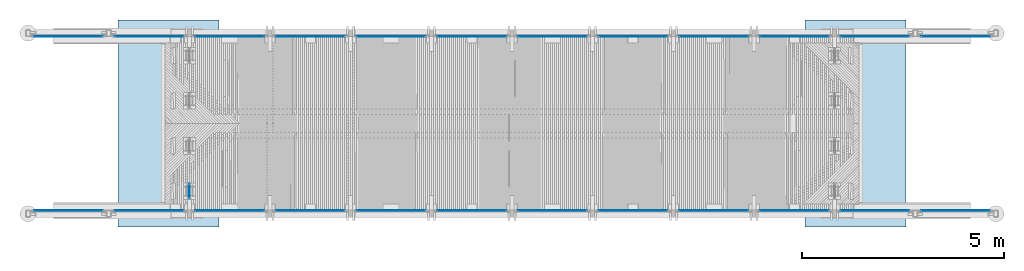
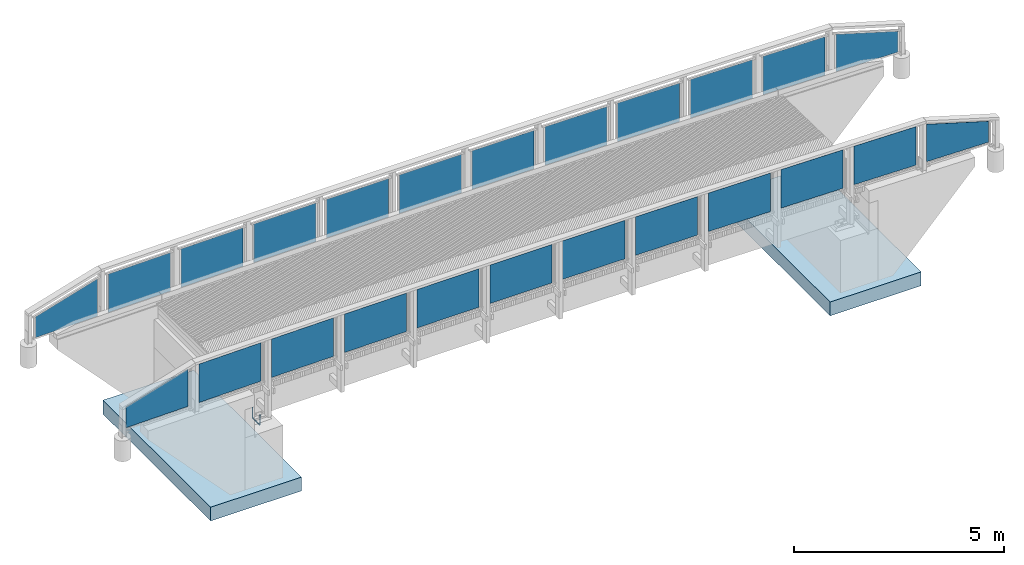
# One storey, part 1 of 65: 24 plates, 2 reinforcing bars, 2 slabs.
"""IFC2X3 building model written with IfcOpenShell, lengths in millimetres."""

from ifc_helpers import new_model, si_unit, frame, origin_with_axes, place, context, subcontext, project, spatial, faceted_brep, source, transform, mapped, material, type_object, element, save


model = new_model("IFC2X3")

# Units and contexts
model_context = context("Model", 3, precision=1e-05, world=origin_with_axes())
body_context = subcontext(model_context, "Body", "Model", "MODEL_VIEW")
ifc_project = project(units=[si_unit("LENGTHUNIT", "METRE", prefix="MILLI"), si_unit("AREAUNIT", "SQUARE_METRE"), si_unit("VOLUMEUNIT", "CUBIC_METRE"), si_unit("MASSUNIT", "GRAM", prefix="KILO"), si_unit("TIMEUNIT", "SECOND"), si_unit("PLANEANGLEUNIT", "RADIAN"), si_unit("SOLIDANGLEUNIT", "STERADIAN"), si_unit("THERMODYNAMICTEMPERATUREUNIT", "DEGREE_CELSIUS"), si_unit("LUMINOUSINTENSITYUNIT", "LUMEN")], contexts=[model_context])

# Site, building, storey
site_placement = place(None, origin_with_axes())
site = spatial("IfcSite", under=ifc_project, at=site_placement, Name="Undefined", CompositionType="ELEMENT")
building_placement = place(site_placement, origin_with_axes())
building = spatial("IfcBuilding", under=site, at=building_placement, Name="Undefined", CompositionType="ELEMENT")
storey_placement = place(building_placement, origin_with_axes())
storey = spatial("IfcBuildingStorey", under=building, at=storey_placement, Name="Undefined", CompositionType="ELEMENT", Elevation=0.0)

# Plates
ifc_material_1 = material(Name="STEEL/S235JR")
plate_type_1 = type_object("IfcPlateType", Name="PL5*1044", PredefinedType="NOTDEFINED")
plate_1_placement = place(storey_placement, frame((-2147.49750515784, 24522.4900000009, 4311.78488654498), z_axis=(0.286044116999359, 0.0, -0.958216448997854), x_axis=(-0.958216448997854, 0.0, -0.286044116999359)))
element("IfcPlate", 1, at=plate_1_placement, inside=storey, type_object=plate_type_1, material=ifc_material_1, Name="PLATE", ObjectType="PL5*1044", context=body_context, shape_type="Brep", body=[
    faceted_brep([(0.0, -2.5, -9.09494701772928e-13), (311.745574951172, -2.5, 1044.31359863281), (311.745574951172, 2.5, 1044.31359863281), (0.0, 2.5, -9.09494701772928e-13), (1953.12536621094, -2.5, 582.124084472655), (1953.12536621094, 2.5, 582.124084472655), (1779.35131835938, -2.5, 2.41925590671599e-10), (1779.35131835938, 2.5, 2.41925590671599e-10)], [[[0, 1, 2, 3]], [[1, 4, 5, 2]], [[4, 6, 7, 5]], [[6, 0, 3, 7]], [[5, 7, 3, 2]], [[6, 4, 1, 0]]]),
])
for number, where, z_axis, x_axis, name in (
    (2, (19852.5024948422, 24522.4900000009, 3802.81192244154), (-0.286044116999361, 0.0, -0.958216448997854), (-0.958216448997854, 0.0, 0.286044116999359), "PLATE"),
    (3, (19852.5024948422, 20207.51, 3802.81192244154), (-0.286044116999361, 0.0, -0.958216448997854), (-0.958216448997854, 0.0, 0.286044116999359), "PLATE"),
):
    element("IfcPlate", number, at=place(storey_placement, frame(where, z_axis=z_axis, x_axis=x_axis)), inside=storey, type_object=plate_type_1, material=ifc_material_1, Name=name, ObjectType="PL5*1044", context=body_context, shape_type="Brep", body=[
        faceted_brep([(0.0, -2.5, -9.09494701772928e-13), (-173.774063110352, -2.5, 582.124084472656), (-173.774063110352, 2.5, 582.124084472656), (0.0, 2.5, -9.09494701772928e-13), (1467.60571289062, -2.5, 1044.31359863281), (1467.60571289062, 2.5, 1044.31359863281), (1779.35131835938, -2.5, 2.41925590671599e-10), (1779.35131835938, 2.5, 2.41925590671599e-10)], [[[0, 1, 2, 3]], [[1, 4, 5, 2]], [[4, 6, 7, 5]], [[6, 0, 3, 7]], [[5, 7, 3, 2]], [[6, 4, 1, 0]]]),
    ])
plate_2_placement = place(storey_placement, frame((-2147.49750515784, 20207.51, 4311.78488654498), z_axis=(0.286044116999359, 0.0, -0.958216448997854), x_axis=(-0.958216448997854, 0.0, -0.286044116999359)))
element("IfcPlate", 4, at=plate_2_placement, inside=storey, type_object=plate_type_1, material=ifc_material_1, Name="PLATE", ObjectType="PL5*1044", context=body_context, shape_type="Brep", body=[
    faceted_brep([(0.0, -2.5, -9.09494701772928e-13), (311.745574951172, -2.5, 1044.31359863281), (311.745574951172, 2.5, 1044.31359863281), (0.0, 2.5, -9.09494701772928e-13), (1953.12536621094, -2.5, 582.124084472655), (1953.12536621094, 2.5, 582.124084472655), (1779.35131835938, -2.5, 2.41925590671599e-10), (1779.35131835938, 2.5, 2.41925590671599e-10)], [[[0, 1, 2, 3]], [[1, 4, 5, 2]], [[4, 6, 7, 5]], [[6, 0, 3, 7]], [[5, 7, 3, 2]], [[6, 4, 1, 0]]]),
])
plate_type_2 = type_object("IfcPlateType", Name="PL5*1120", PredefinedType="NOTDEFINED")
plate_3_placement = place(storey_placement, frame((-147.497505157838, 24522.4900000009, 4371.7621065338), z_axis=(0.0156176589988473, 0.0, -0.999878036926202), x_axis=(-0.999878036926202, 0.0, -0.0156176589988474)))
element("IfcPlate", 5, at=plate_3_placement, inside=storey, type_object=plate_type_2, material=ifc_material_1, Name="PLATE", ObjectType="PL5*1120", context=body_context, shape_type="Brep", body=[
    faceted_brep([(0.0, -2.5, -9.09494701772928e-13), (17.4911937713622, -2.5, 1119.85485839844), (17.4911937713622, 2.5, 1119.85485839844), (0.0, 2.5, -9.09494701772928e-13), (1722.70324707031, -2.5, 1119.85327148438), (1722.70324707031, 2.5, 1119.85327148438), (1705.21166992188, -2.5, -1.45519152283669e-11), (1705.21166992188, 2.5, -1.45519152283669e-11)], [[[0, 1, 2, 3]], [[1, 4, 5, 2]], [[4, 6, 7, 5]], [[6, 0, 3, 7]], [[5, 7, 3, 2]], [[6, 4, 1, 0]]]),
])
plate_4_placement = place(storey_placement, frame((1852.50249484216, 24522.4900000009, 4395.3234045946), z_axis=(0.0121462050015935, 0.0, -0.99992623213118), x_axis=(-0.99992623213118, 0.0, -0.0121462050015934)))
element("IfcPlate", 6, at=plate_4_placement, inside=storey, type_object=plate_type_2, material=ifc_material_1, Name="PLATE", ObjectType="PL5*1120", context=body_context, shape_type="Brep", body=[
    faceted_brep([(0.0, -2.5, -9.09494701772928e-13), (13.6036462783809, -2.5, 1119.90893554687), (13.6036462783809, 2.5, 1119.90893554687), (0.0, 2.5, -9.09494701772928e-13), (1718.73303222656, -2.5, 1119.90893554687), (1718.73303222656, 2.5, 1119.90893554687), (1705.12939453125, -2.5, 1.60071067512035e-10), (1705.12939453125, 2.5, 1.60071067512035e-10)], [[[0, 1, 2, 3]], [[1, 4, 5, 2]], [[4, 6, 7, 5]], [[6, 0, 3, 7]], [[5, 7, 3, 2]], [[6, 4, 1, 0]]]),
])
plate_5_placement = place(storey_placement, frame((17852.5024948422, 24522.4900000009, 4345.13069314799), z_axis=(-0.0156176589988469, 0.0, -0.999878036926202), x_axis=(-0.999878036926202, 0.0, 0.0156176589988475)))
element("IfcPlate", 7, at=plate_5_placement, inside=storey, type_object=plate_type_2, material=ifc_material_1, Name="PLATE", ObjectType="PL5*1120", context=body_context, shape_type="Brep", body=[
    faceted_brep([(0.0, -2.5, -9.09494701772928e-13), (-17.4916191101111, -2.5, 1119.85327148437), (-17.4916191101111, 2.5, 1119.85327148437), (0.0, 2.5, -9.09494701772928e-13), (1687.71997070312, -2.5, 1119.85522460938), (1687.71997070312, 2.5, 1119.85522460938), (1705.21166992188, -2.5, -1.45519152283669e-11), (1705.21166992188, 2.5, -1.45519152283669e-11)], [[[0, 1, 2, 3]], [[1, 4, 5, 2]], [[4, 6, 7, 5]], [[6, 0, 3, 7]], [[5, 7, 3, 2]], [[6, 4, 1, 0]]]),
])
plate_6_placement = place(storey_placement, frame((15852.5024948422, 24522.4900000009, 4374.61246804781), z_axis=(-0.0121462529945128, 0.0, -0.999926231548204), x_axis=(-0.999926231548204, 0.0, 0.0121462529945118)))
element("IfcPlate", 8, at=plate_6_placement, inside=storey, type_object=plate_type_2, material=ifc_material_1, Name="PLATE", ObjectType="PL5*1120", context=body_context, shape_type="Brep", body=[
    faceted_brep([(0.0, -2.5, -9.09494701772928e-13), (-13.6037006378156, -2.5, 1119.90893554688), (-13.6037006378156, 2.5, 1119.90893554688), (0.0, 2.5, -9.09494701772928e-13), (1691.52575683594, -2.5, 1119.90893554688), (1691.52575683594, 2.5, 1119.90893554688), (1705.12939453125, -2.5, 1.60071067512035e-10), (1705.12939453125, 2.5, 1.60071067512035e-10)], [[[0, 1, 2, 3]], [[1, 4, 5, 2]], [[4, 6, 7, 5]], [[6, 0, 3, 7]], [[5, 7, 3, 2]], [[6, 4, 1, 0]]]),
])
plate_7_placement = place(storey_placement, frame((13852.5024948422, 24522.4900000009, 4397.46397344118), z_axis=(-0.00867650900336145, 0.0, -0.999962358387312), x_axis=(-0.999962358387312, 0.0, 0.00867650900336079)))
element("IfcPlate", 9, at=plate_7_placement, inside=storey, type_object=plate_type_2, material=ifc_material_1, Name="PLATE", ObjectType="PL5*1120", context=body_context, shape_type="Brep", body=[
    faceted_brep([(0.0, -2.5, -9.09494701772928e-13), (-9.7176733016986, -2.5, 1119.95581054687), (-9.7176733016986, 2.5, 1119.95581054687), (0.0, 2.5, -9.09494701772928e-13), (1695.35021972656, -2.5, 1119.95581054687), (1695.35021972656, 2.5, 1119.95581054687), (1705.06787109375, -2.5, 5.12955011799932e-10), (1705.06787109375, 2.5, 5.12955011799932e-10)], [[[0, 1, 2, 3]], [[1, 4, 5, 2]], [[4, 6, 7, 5]], [[6, 0, 3, 7]], [[5, 7, 3, 2]], [[6, 4, 1, 0]]]),
])
plate_8_placement = place(storey_placement, frame((11852.5024948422, 24522.4900000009, 4413.68498261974), z_axis=(-0.00520434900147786, 0.0, -0.999986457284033), x_axis=(-0.999986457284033, 0.0, 0.00520434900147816)))
element("IfcPlate", 10, at=plate_8_placement, inside=storey, type_object=plate_type_2, material=ifc_material_1, Name="PLATE", ObjectType="PL5*1120", context=body_context, shape_type="Brep", body=[
    faceted_brep([(0.0, -2.5, -9.09494701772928e-13), (-5.82886934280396, -2.5, 1119.98461914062), (-5.82886934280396, 2.5, 1119.98461914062), (0.0, 2.5, -9.09494701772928e-13), (1699.19787597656, -2.5, 1119.98461914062), (1699.19787597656, 2.5, 1119.98461914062), (1705.02673339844, -2.5, -4.42923919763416e-10), (1705.02673339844, 2.5, -4.42923919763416e-10)], [[[0, 1, 2, 3]], [[1, 4, 5, 2]], [[4, 6, 7, 5]], [[6, 0, 3, 7]], [[5, 7, 3, 2]], [[6, 4, 1, 0]]]),
])
plate_9_placement = place(storey_placement, frame((9852.50249484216, 24522.4900000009, 4423.27202277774), z_axis=(-0.00173620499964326, 0.0, -0.999998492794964), x_axis=(-0.999998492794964, 0.0, 0.00173620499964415)))
element("IfcPlate", 11, at=plate_9_placement, inside=storey, type_object=plate_type_2, material=ifc_material_1, Name="PLATE", ObjectType="PL5*1120", context=body_context, shape_type="Brep", body=[
    faceted_brep([(0.0, -2.5, -9.09494701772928e-13), (-1.94455039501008, -2.5, 1119.9990234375), (-1.94455039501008, 2.5, 1119.9990234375), (0.0, 2.5, -9.09494701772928e-13), (1703.06164550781, -2.5, 1119.9990234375), (1703.06164550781, 2.5, 1119.9990234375), (1705.00622558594, -2.5, -4.92036633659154e-10), (1705.00622558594, 2.5, -4.92036633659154e-10)], [[[0, 1, 2, 3]], [[1, 4, 5, 2]], [[4, 6, 7, 5]], [[6, 0, 3, 7]], [[5, 7, 3, 2]], [[6, 4, 1, 0]]]),
])
plate_10_placement = place(storey_placement, frame((7852.50249484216, 24522.4900000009, 4426.23226331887), z_axis=(0.00173619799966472, 0.0, -0.999998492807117), x_axis=(-0.999998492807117, 0.0, -0.00173619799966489)))
element("IfcPlate", 12, at=plate_10_placement, inside=storey, type_object=plate_type_2, material=ifc_material_1, Name="PLATE", ObjectType="PL5*1120", context=body_context, shape_type="Brep", body=[
    faceted_brep([(0.0, -2.5, -9.09494701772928e-13), (1.94454336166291, -2.5, 1119.9990234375), (1.94454336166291, 2.5, 1119.9990234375), (0.0, 2.5, -9.09494701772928e-13), (1706.95080566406, -2.5, 1119.9990234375), (1706.95080566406, 2.5, 1119.9990234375), (1705.00622558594, -2.5, -4.92036633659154e-10), (1705.00622558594, 2.5, -4.92036633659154e-10)], [[[0, 1, 2, 3]], [[1, 4, 5, 2]], [[4, 6, 7, 5]], [[6, 0, 3, 7]], [[5, 7, 3, 2]], [[6, 4, 1, 0]]]),
])
plate_11_placement = place(storey_placement, frame((5852.50249484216, 24522.4900000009, 4422.55853572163), z_axis=(0.00520434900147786, 0.0, -0.999986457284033), x_axis=(-0.999986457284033, 0.0, -0.00520434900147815)))
element("IfcPlate", 13, at=plate_11_placement, inside=storey, type_object=plate_type_2, material=ifc_material_1, Name="PLATE", ObjectType="PL5*1120", context=body_context, shape_type="Brep", body=[
    faceted_brep([(0.0, -2.5, -9.09494701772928e-13), (5.82886934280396, -2.5, 1119.98461914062), (5.82886934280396, 2.5, 1119.98461914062), (0.0, 2.5, -9.09494701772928e-13), (1710.85559082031, -2.5, 1119.98461914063), (1710.85559082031, 2.5, 1119.98461914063), (1705.02673339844, -2.5, -4.42923919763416e-10), (1705.02673339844, 2.5, -4.42923919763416e-10)], [[[0, 1, 2, 3]], [[1, 4, 5, 2]], [[4, 6, 7, 5]], [[6, 0, 3, 7]], [[5, 7, 3, 2]], [[6, 4, 1, 0]]]),
])
plate_12_placement = place(storey_placement, frame((2147.49883273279, 24522.4900000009, 4397.46403524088), z_axis=(1.0, 0.0, 0.0), x_axis=(0.0, 0.0, -1.0)))
element("IfcPlate", 14, at=plate_12_placement, inside=storey, type_object=plate_type_2, material=ifc_material_1, Name="PLATE", ObjectType="PL5*1120", context=body_context, shape_type="Brep", body=[
    faceted_brep([(0.0, -2.5, -9.09494701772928e-13), (-14.7939758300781, -2.5, 1705.00366210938), (-14.7939758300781, 2.5, 1705.00366210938), (0.0, 2.5, -9.09494701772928e-13), (1105.20397949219, -2.5, 1705.00366210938), (1105.20397949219, 2.5, 1705.00366210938), (1119.998046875, -2.5, 0.0), (1119.998046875, 2.5, 0.0)], [[[0, 1, 2, 3]], [[1, 4, 5, 2]], [[4, 6, 7, 5]], [[6, 0, 3, 7]], [[5, 7, 3, 2]], [[6, 4, 1, 0]]]),
])
plate_13_placement = place(storey_placement, frame((-147.497505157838, 20207.51, 4371.7621065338), z_axis=(0.0156176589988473, 0.0, -0.999878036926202), x_axis=(-0.999878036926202, 0.0, -0.0156176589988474)))
element("IfcPlate", 15, at=plate_13_placement, inside=storey, type_object=plate_type_2, material=ifc_material_1, Name="PLATE", ObjectType="PL5*1120", context=body_context, shape_type="Brep", body=[
    faceted_brep([(0.0, -2.5, -9.09494701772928e-13), (17.4911937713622, -2.5, 1119.85485839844), (17.4911937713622, 2.5, 1119.85485839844), (0.0, 2.5, -9.09494701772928e-13), (1722.70324707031, -2.5, 1119.85327148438), (1722.70324707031, 2.5, 1119.85327148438), (1705.21166992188, -2.5, -1.45519152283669e-11), (1705.21166992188, 2.5, -1.45519152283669e-11)], [[[0, 1, 2, 3]], [[1, 4, 5, 2]], [[4, 6, 7, 5]], [[6, 0, 3, 7]], [[5, 7, 3, 2]], [[6, 4, 1, 0]]]),
])
plate_14_placement = place(storey_placement, frame((17852.5024948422, 20207.51, 4345.13069314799), z_axis=(-0.0156176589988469, 0.0, -0.999878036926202), x_axis=(-0.999878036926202, 0.0, 0.0156176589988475)))
element("IfcPlate", 16, at=plate_14_placement, inside=storey, type_object=plate_type_2, material=ifc_material_1, Name="PLATE", ObjectType="PL5*1120", context=body_context, shape_type="Brep", body=[
    faceted_brep([(0.0, -2.5, -9.09494701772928e-13), (-17.4916191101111, -2.5, 1119.85327148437), (-17.4916191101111, 2.5, 1119.85327148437), (0.0, 2.5, -9.09494701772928e-13), (1687.71997070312, -2.5, 1119.85522460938), (1687.71997070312, 2.5, 1119.85522460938), (1705.21166992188, -2.5, -1.45519152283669e-11), (1705.21166992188, 2.5, -1.45519152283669e-11)], [[[0, 1, 2, 3]], [[1, 4, 5, 2]], [[4, 6, 7, 5]], [[6, 0, 3, 7]], [[5, 7, 3, 2]], [[6, 4, 1, 0]]]),
])
plate_15_placement = place(storey_placement, frame((15852.5024948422, 20207.51, 4374.61246804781), z_axis=(-0.0121462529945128, 0.0, -0.999926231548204), x_axis=(-0.999926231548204, 0.0, 0.0121462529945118)))
element("IfcPlate", 17, at=plate_15_placement, inside=storey, type_object=plate_type_2, material=ifc_material_1, Name="PLATE", ObjectType="PL5*1120", context=body_context, shape_type="Brep", body=[
    faceted_brep([(0.0, -2.5, -9.09494701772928e-13), (-13.6037006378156, -2.5, 1119.90893554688), (-13.6037006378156, 2.5, 1119.90893554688), (0.0, 2.5, -9.09494701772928e-13), (1691.52575683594, -2.5, 1119.90893554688), (1691.52575683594, 2.5, 1119.90893554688), (1705.12939453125, -2.5, 1.60071067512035e-10), (1705.12939453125, 2.5, 1.60071067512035e-10)], [[[0, 1, 2, 3]], [[1, 4, 5, 2]], [[4, 6, 7, 5]], [[6, 0, 3, 7]], [[5, 7, 3, 2]], [[6, 4, 1, 0]]]),
])
plate_16_placement = place(storey_placement, frame((13852.5024948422, 20207.51, 4397.46397344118), z_axis=(-0.00867650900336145, 0.0, -0.999962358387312), x_axis=(-0.999962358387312, 0.0, 0.00867650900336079)))
element("IfcPlate", 18, at=plate_16_placement, inside=storey, type_object=plate_type_2, material=ifc_material_1, Name="PLATE", ObjectType="PL5*1120", context=body_context, shape_type="Brep", body=[
    faceted_brep([(0.0, -2.5, -9.09494701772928e-13), (-9.7176733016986, -2.5, 1119.95581054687), (-9.7176733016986, 2.5, 1119.95581054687), (0.0, 2.5, -9.09494701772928e-13), (1695.35021972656, -2.5, 1119.95581054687), (1695.35021972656, 2.5, 1119.95581054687), (1705.06787109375, -2.5, 5.12955011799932e-10), (1705.06787109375, 2.5, 5.12955011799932e-10)], [[[0, 1, 2, 3]], [[1, 4, 5, 2]], [[4, 6, 7, 5]], [[6, 0, 3, 7]], [[5, 7, 3, 2]], [[6, 4, 1, 0]]]),
])
plate_17_placement = place(storey_placement, frame((11852.5024948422, 20207.51, 4413.68498261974), z_axis=(-0.00520434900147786, 0.0, -0.999986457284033), x_axis=(-0.999986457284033, 0.0, 0.00520434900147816)))
element("IfcPlate", 19, at=plate_17_placement, inside=storey, type_object=plate_type_2, material=ifc_material_1, Name="PLATE", ObjectType="PL5*1120", context=body_context, shape_type="Brep", body=[
    faceted_brep([(0.0, -2.5, -9.09494701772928e-13), (-5.82886934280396, -2.5, 1119.98461914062), (-5.82886934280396, 2.5, 1119.98461914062), (0.0, 2.5, -9.09494701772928e-13), (1699.19787597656, -2.5, 1119.98461914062), (1699.19787597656, 2.5, 1119.98461914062), (1705.02673339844, -2.5, -4.42923919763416e-10), (1705.02673339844, 2.5, -4.42923919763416e-10)], [[[0, 1, 2, 3]], [[1, 4, 5, 2]], [[4, 6, 7, 5]], [[6, 0, 3, 7]], [[5, 7, 3, 2]], [[6, 4, 1, 0]]]),
])
plate_18_placement = place(storey_placement, frame((9852.50249484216, 20207.51, 4423.27202277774), z_axis=(-0.00173620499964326, 0.0, -0.999998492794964), x_axis=(-0.999998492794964, 0.0, 0.00173620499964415)))
element("IfcPlate", 20, at=plate_18_placement, inside=storey, type_object=plate_type_2, material=ifc_material_1, Name="PLATE", ObjectType="PL5*1120", context=body_context, shape_type="Brep", body=[
    faceted_brep([(0.0, -2.5, -9.09494701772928e-13), (-1.94455039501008, -2.5, 1119.9990234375), (-1.94455039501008, 2.5, 1119.9990234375), (0.0, 2.5, -9.09494701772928e-13), (1703.06164550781, -2.5, 1119.9990234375), (1703.06164550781, 2.5, 1119.9990234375), (1705.00622558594, -2.5, -4.92036633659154e-10), (1705.00622558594, 2.5, -4.92036633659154e-10)], [[[0, 1, 2, 3]], [[1, 4, 5, 2]], [[4, 6, 7, 5]], [[6, 0, 3, 7]], [[5, 7, 3, 2]], [[6, 4, 1, 0]]]),
])
plate_19_placement = place(storey_placement, frame((7852.50249484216, 20207.51, 4426.23226331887), z_axis=(0.00173619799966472, 0.0, -0.999998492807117), x_axis=(-0.999998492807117, 0.0, -0.00173619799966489)))
element("IfcPlate", 21, at=plate_19_placement, inside=storey, type_object=plate_type_2, material=ifc_material_1, Name="PLATE", ObjectType="PL5*1120", context=body_context, shape_type="Brep", body=[
    faceted_brep([(0.0, -2.5, -9.09494701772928e-13), (1.94454336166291, -2.5, 1119.9990234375), (1.94454336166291, 2.5, 1119.9990234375), (0.0, 2.5, -9.09494701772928e-13), (1706.95080566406, -2.5, 1119.9990234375), (1706.95080566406, 2.5, 1119.9990234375), (1705.00622558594, -2.5, -4.92036633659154e-10), (1705.00622558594, 2.5, -4.92036633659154e-10)], [[[0, 1, 2, 3]], [[1, 4, 5, 2]], [[4, 6, 7, 5]], [[6, 0, 3, 7]], [[5, 7, 3, 2]], [[6, 4, 1, 0]]]),
])
plate_20_placement = place(storey_placement, frame((5852.50249484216, 20207.51, 4422.55853572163), z_axis=(0.00520434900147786, 0.0, -0.999986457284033), x_axis=(-0.999986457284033, 0.0, -0.00520434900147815)))
element("IfcPlate", 22, at=plate_20_placement, inside=storey, type_object=plate_type_2, material=ifc_material_1, Name="PLATE", ObjectType="PL5*1120", context=body_context, shape_type="Brep", body=[
    faceted_brep([(0.0, -2.5, -9.09494701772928e-13), (5.82886934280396, -2.5, 1119.98461914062), (5.82886934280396, 2.5, 1119.98461914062), (0.0, 2.5, -9.09494701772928e-13), (1710.85559082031, -2.5, 1119.98461914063), (1710.85559082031, 2.5, 1119.98461914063), (1705.02673339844, -2.5, -4.42923919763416e-10), (1705.02673339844, 2.5, -4.42923919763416e-10)], [[[0, 1, 2, 3]], [[1, 4, 5, 2]], [[4, 6, 7, 5]], [[6, 0, 3, 7]], [[5, 7, 3, 2]], [[6, 4, 1, 0]]]),
])
plate_21_placement = place(storey_placement, frame((2147.49883273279, 20207.51, 4397.46403524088), z_axis=(1.0, 0.0, 0.0), x_axis=(0.0, 0.0, -1.0)))
element("IfcPlate", 23, at=plate_21_placement, inside=storey, type_object=plate_type_2, material=ifc_material_1, Name="PLATE", ObjectType="PL5*1120", context=body_context, shape_type="Brep", body=[
    faceted_brep([(0.0, -2.5, -9.09494701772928e-13), (-14.7939758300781, -2.5, 1705.00366210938), (-14.7939758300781, 2.5, 1705.00366210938), (0.0, 2.5, -9.09494701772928e-13), (1105.20397949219, -2.5, 1705.00366210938), (1105.20397949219, 2.5, 1705.00366210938), (1119.998046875, -2.5, 0.0), (1119.998046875, 2.5, 0.0)], [[[0, 1, 2, 3]], [[1, 4, 5, 2]], [[4, 6, 7, 5]], [[6, 0, 3, 7]], [[5, 7, 3, 2]], [[6, 4, 1, 0]]]),
])
plate_22_placement = place(storey_placement, frame((1852.50249484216, 20207.51, 4395.3234045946), z_axis=(0.0121462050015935, 0.0, -0.99992623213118), x_axis=(-0.99992623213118, 0.0, -0.0121462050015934)))
element("IfcPlate", 24, at=plate_22_placement, inside=storey, type_object=plate_type_2, material=ifc_material_1, Name="PLATE", ObjectType="PL5*1120", context=body_context, shape_type="Brep", body=[
    faceted_brep([(0.0, -2.5, -9.09494701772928e-13), (13.6036462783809, -2.5, 1119.90893554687), (13.6036462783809, 2.5, 1119.90893554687), (0.0, 2.5, -9.09494701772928e-13), (1718.73303222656, -2.5, 1119.90893554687), (1718.73303222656, 2.5, 1119.90893554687), (1705.12939453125, -2.5, 1.60071067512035e-10), (1705.12939453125, 2.5, 1.60071067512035e-10)], [[[0, 1, 2, 3]], [[1, 4, 5, 2]], [[4, 6, 7, 5]], [[6, 0, 3, 7]], [[5, 7, 3, 2]], [[6, 4, 1, 0]]]),
])

# Slabs
ifc_material_2 = material(Name="CONCRETE/Concrete_Undefined")
slab_type = type_object("IfcSlabType", Name="400*2500", PredefinedType="NOTDEFINED")
for number, where, z_axis, x_axis in (
    (25, (17765.0, 24930.0, 200.0), (-1.0, 0.0, 0.0), (0.0, -1.0, 0.0)),
    (26, (-1765.0, 24930.0, 200.0), (1.0, 0.0, 0.0), (0.0, -1.0, 0.0)),
):
    element("IfcSlab", number, at=place(storey_placement, frame(where, z_axis=z_axis, x_axis=x_axis)), inside=storey, type_object=slab_type, material=ifc_material_2, Name="PERUSLAATTA", ObjectType="400*2500", PredefinedType="FLOOR", context=body_context, shape_type="Brep", body=[
        faceted_brep([(0.0, -200.0, 0.0), (0.0, -200.0, 2500.0), (0.0, 200.0, 2500.0), (0.0, 200.0, 0.0), (5130.0, -200.0, 2500.0), (5130.0, 200.0, 2500.0), (5130.0, -200.0, 0.0), (5130.0, 200.0, 0.0)], [[[0, 1, 2, 3]], [[1, 4, 5, 2]], [[4, 6, 7, 5]], [[6, 0, 3, 7]], [[5, 7, 3, 2]], [[6, 4, 1, 0]]]),
    ])

# Reinforcing bars
ifc_material_3 = material(Name="A500HW")
shared_shape = source(origin_with_axes(), body_context, "Body", "Brep", [
    faceted_brep([(9.95929214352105, -5.74999999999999, -1.31778448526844e-16), (9.95929214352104, 5.75000000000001, -1.31778448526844e-16), (-4.46864767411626e-15, 11.5, 5.31556664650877e-32), (-9.95929214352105, 5.75, 1.31778448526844e-16), (-9.95929214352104, -5.75, 1.31778448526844e-16), (0.0, -11.5, 0.0), (-9.95929214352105, -5.75, -268.5), (-3.5527136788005e-15, -11.5, -268.5), (-9.95929214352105, 5.75, -268.5), (-8.02136135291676e-15, 11.5, -268.5), (9.95929214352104, 5.75000000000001, -268.5), (9.95929214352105, -5.74999999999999, -268.5), (-4.40480021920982, -5.75, -289.229646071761), (4.22019978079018, -11.5, -284.25), (-4.40480021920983, 5.75, -289.229646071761), (4.22019978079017, 11.5, -284.25), (12.8451997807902, 5.75000000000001, -279.27035392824), (12.8451997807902, -5.74999999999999, -279.27035392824), (10.7703539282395, -5.75, -304.40480021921), (15.75, -11.5, -295.77980021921), (10.7703539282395, 5.75, -304.40480021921), (15.75, 11.5, -295.77980021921), (20.7296460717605, 5.75000000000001, -287.15480021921), (20.7296460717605, -5.74999999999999, -287.15480021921), (31.5, -5.75, -309.959292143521), (31.5, -11.5, -300.0), (31.5, 5.75, -309.959292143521), (31.5, 11.5, -300.0), (31.5, 5.75000000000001, -290.040707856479), (31.5, -5.74999999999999, -290.040707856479), (323.5, -5.75, -309.959292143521), (323.5, -11.5, -300.0), (323.5, 5.75, -309.959292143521), (323.5, 11.5, -300.0), (323.5, 5.75000000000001, -290.040707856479), (323.5, -5.74999999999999, -290.040707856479), (344.229646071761, -5.75, -304.40480021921), (339.25, -11.5, -295.77980021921), (344.229646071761, 5.75, -304.40480021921), (339.25, 11.5, -295.77980021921), (334.270353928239, 5.75000000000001, -287.15480021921), (334.270353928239, -5.74999999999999, -287.15480021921), (359.40480021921, -5.75, -289.229646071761), (350.77980021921, -11.5, -284.25), (359.40480021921, 5.75, -289.229646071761), (350.77980021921, 11.5, -284.25), (342.15480021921, 5.75000000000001, -279.27035392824), (342.15480021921, -5.74999999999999, -279.27035392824), (364.959292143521, -5.75, -268.5), (355.0, -11.5, -268.5), (364.959292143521, 5.75, -268.5), (355.0, 11.5, -268.5), (345.040707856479, 5.75000000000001, -268.5), (345.040707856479, -5.74999999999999, -268.5), (364.959292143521, -5.75, 0.0), (355.0, -11.5, 0.0), (364.959292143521, 5.75, 0.0), (355.0, 11.5, 0.0), (345.040707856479, 5.75000000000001, 0.0), (345.040707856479, -5.74999999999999, 0.0)], [[[0, 1, 2, 3, 4, 5]], [[5, 4, 6, 7]], [[4, 3, 8, 6]], [[3, 2, 9, 8]], [[2, 1, 10, 9]], [[1, 0, 11, 10]], [[0, 5, 7, 11]], [[7, 6, 12, 13]], [[6, 8, 14, 12]], [[8, 9, 15, 14]], [[9, 10, 16, 15]], [[10, 11, 17, 16]], [[11, 7, 13, 17]], [[13, 12, 18, 19]], [[12, 14, 20, 18]], [[14, 15, 21, 20]], [[15, 16, 22, 21]], [[16, 17, 23, 22]], [[17, 13, 19, 23]], [[19, 18, 24, 25]], [[18, 20, 26, 24]], [[20, 21, 27, 26]], [[21, 22, 28, 27]], [[22, 23, 29, 28]], [[23, 19, 25, 29]], [[25, 24, 30, 31]], [[24, 26, 32, 30]], [[26, 27, 33, 32]], [[27, 28, 34, 33]], [[28, 29, 35, 34]], [[29, 25, 31, 35]], [[31, 30, 36, 37]], [[30, 32, 38, 36]], [[32, 33, 39, 38]], [[33, 34, 40, 39]], [[34, 35, 41, 40]], [[35, 31, 37, 41]], [[37, 36, 42, 43]], [[36, 38, 44, 42]], [[38, 39, 45, 44]], [[39, 40, 46, 45]], [[40, 41, 47, 46]], [[41, 37, 43, 47]], [[43, 42, 48, 49]], [[42, 44, 50, 48]], [[44, 45, 51, 50]], [[45, 46, 52, 51]], [[46, 47, 53, 52]], [[47, 43, 49, 53]], [[49, 48, 54, 55]], [[48, 50, 56, 54]], [[50, 51, 57, 56]], [[51, 52, 58, 57]], [[52, 53, 59, 58]], [[53, 49, 55, 59]], [[55, 54, 56, 57, 58, 59]]]),
])
for number, where, z_axis, x_axis, name in (
    (27, (0.0, 20507.5, 1615.32999999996), (0.0, 0.0, 1.0), (0.0, 1.0, 0.0), "REBAR"),
    (28, (0.0, 20507.5, 1615.32999999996), (0.0, 0.0, 1.0), (0.0, 1.0, 0.0), "REBAR"),
):
    element("IfcReinforcingBar", number, at=place(storey_placement, frame(where, z_axis=z_axis, x_axis=x_axis)), inside=storey, material=ifc_material_3, Name=name, BarRole="NOTDEFINED", CrossSectionArea=0.0, NominalDiameter=23.0, context=body_context, shape_type="MappedRepresentation", body=[
        mapped(shared_shape, transform((0.0, 0.0, 420.0))),
    ])

save(model, "model.ifc")
